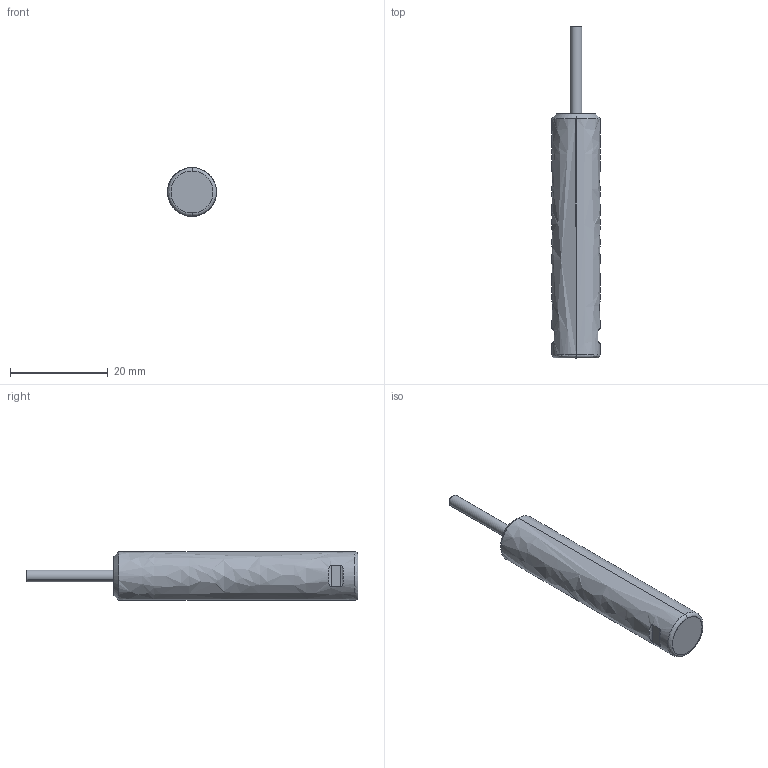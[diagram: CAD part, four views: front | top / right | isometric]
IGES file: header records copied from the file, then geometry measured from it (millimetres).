
Start section: SolidWorks IGES file using analytic representation for surfaces
Bounding box: 10 x 68 x 10 mm (x, y, z)
Surface area: 1977.8 mm2 (no closed solid volume)
Topology: 0 solids, 0 shells, 25 faces, 336 edges, 336 vertices
Faces by surface type: revolution 18, bspline 7
